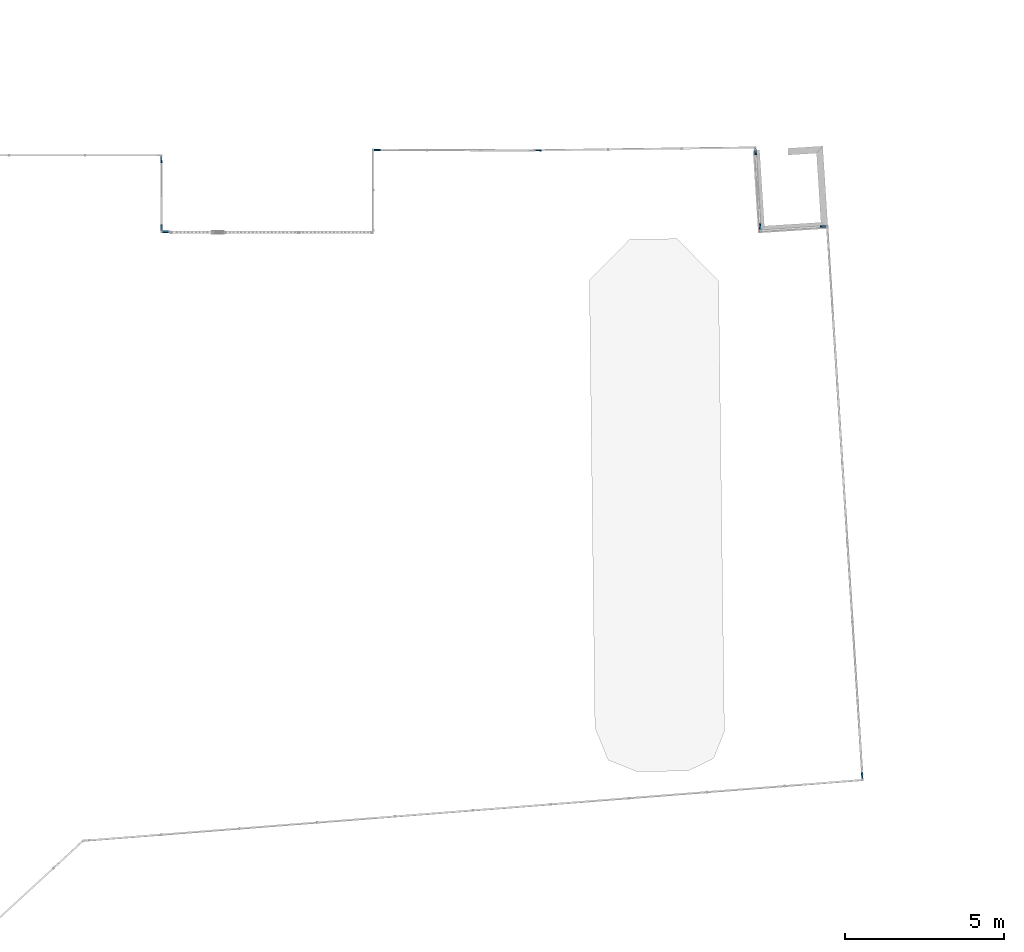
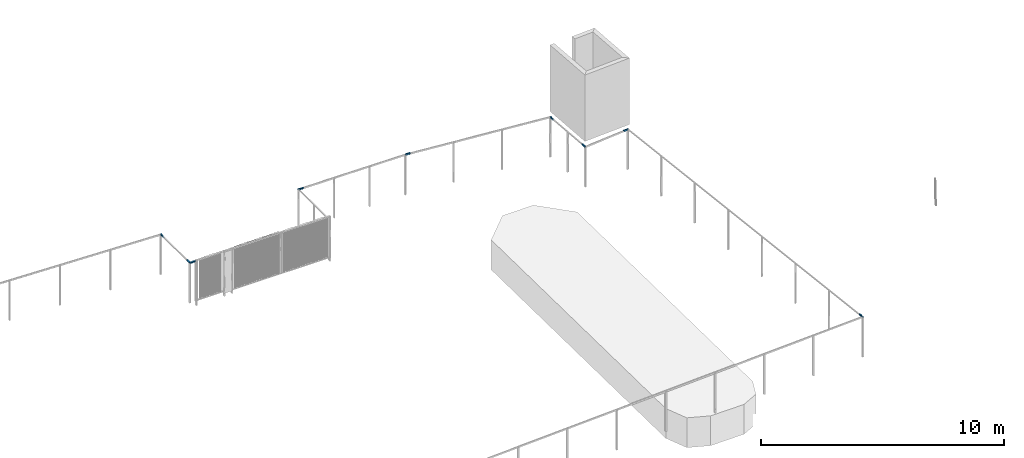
# One storey, part 81 of 91: 9 building element parts, 1 element without a shape of its own.
"""IFC2X3 building model written with IfcOpenShell, lengths in metres."""

import ifcopenshell
import ifcopenshell.guid

model = None  # the IFC model being written
_history = None  # IfcOwnerHistory: only IFC2X3 demands one
_inside = {}  # id of a spatial element -> (the spatial element, [elements in it])
_under = {}  # id of a project, library or spatial element -> (it, [spatial elements below it])
_declared = {}  # id of a project -> (the project, [libraries it declares])
_typed = {}  # id of a type object -> (the type object, [elements of that type])
_made_of = {}  # id of a material, layer set ... -> (it, [elements and type objects made of it])


def new_model(schema):
    """Start an empty IFC model of exactly this schema.

    Asked for "IFC4X3", IfcOpenShell would pick the latest addendum, in which some entities
    have other attributes; the version numbers below select the first issue.
    IFC2X3 requires an IfcOwnerHistory on every rooted entity: one is made here for all.
    """
    global model, _history
    if schema == "IFC4X3":
        model = ifcopenshell.file(schema_version=(4, 3, 0, 0))
    else:
        model = ifcopenshell.file(schema=schema)
    _inside.clear()
    _under.clear()
    _declared.clear()
    _typed.clear()
    _made_of.clear()
    _history = None
    if model.schema == "IFC2X3":
        org = make("IfcOrganization", Name="unknown")
        user = make(
            "IfcPersonAndOrganization",
            ThePerson=make("IfcPerson", FamilyName="unknown"),
            TheOrganization=org,
        )
        app = make(
            "IfcApplication",
            ApplicationDeveloper=org,
            Version="unknown",
            ApplicationFullName="unknown",
            ApplicationIdentifier="unknown",
        )
        _history = make(
            "IfcOwnerHistory",
            OwningUser=user,
            OwningApplication=app,
            ChangeAction="ADDED",
            CreationDate=0,
        )
    return model


def make(cls, **values):
    """One entity of the class cls with the attributes given. An attribute that is None is left unset."""
    return model.create_entity(
        cls, **{name: value for name, value in values.items() if value is not None}
    )


def entity(cls, *values):
    """Any entity or typed value of the class cls, its attributes in the order of the schema. None: left unset."""
    e = model.create_entity(cls)
    for i, value in enumerate(values):
        if value is not None:
            e[i] = value
    return e


def rooted(cls, **values):
    """An entity with a GlobalId (a new one), such as an element, a storey or a relation."""
    return make(cls, GlobalId=ifcopenshell.guid.new(), OwnerHistory=_history, **values)


def si_unit(unit_type, name, prefix=None):
    """IfcSIUnit, for example si_unit("LENGTHUNIT", "METRE", prefix="MILLI")."""
    return make("IfcSIUnit", UnitType=unit_type, Prefix=prefix, Name=name)


def converted_unit(unit_type, name, factor, base, dimensions=None, offset=None):
    """IfcConversionBasedUnit, such as the inch: factor (a typed value) times the base unit."""
    return make(
        "IfcConversionBasedUnit"
        if offset is None
        else "IfcConversionBasedUnitWithOffset",
        ConversionOffset=offset,
        Dimensions=None
        if dimensions is None
        else entity("IfcDimensionalExponents", *dimensions),
        UnitType=unit_type,
        Name=name,
        ConversionFactor=make(
            "IfcMeasureWithUnit", ValueComponent=factor, UnitComponent=base
        ),
    )


def derived_unit(unit_type, elements):
    """IfcDerivedUnit: a product of units, each with its exponent."""
    return make(
        "IfcDerivedUnit",
        Elements=[
            make("IfcDerivedUnitElement", Unit=unit, Exponent=power)
            for unit, power in elements
        ],
        UnitType=unit_type,
    )


def money_unit(currency):
    """IfcMonetaryUnit."""
    return make("IfcMonetaryUnit", Currency=currency)


def assignment(units):
    """IfcUnitAssignment: the units of a project."""
    return None if units is None else make("IfcUnitAssignment", Units=units)


def point(xyz):
    """IfcCartesianPoint."""
    return None if xyz is None else make("IfcCartesianPoint", Coordinates=xyz)


def direction(xyz):
    """IfcDirection."""
    return None if xyz is None else make("IfcDirection", DirectionRatios=xyz)


def frame(location, z_axis=None, x_axis=None):
    """IfcAxis2Placement3D, a coordinate frame: its origin and axes. An axis left out is left unset."""
    return make(
        "IfcAxis2Placement3D",
        Location=point(location),
        Axis=direction(z_axis),
        RefDirection=direction(x_axis),
    )


def origin_with_axes():
    """The frame at (0, 0, 0) with the z axis (0, 0, 1) and the x axis (1, 0, 0) written out."""
    return frame((0.0, 0.0, 0.0), z_axis=(0.0, 0.0, 1.0), x_axis=(1.0, 0.0, 0.0))


def place(relative_to, where):
    """IfcLocalPlacement: puts the frame where relative to a parent placement (None: the world)."""
    return make(
        "IfcLocalPlacement", PlacementRelTo=relative_to, RelativePlacement=where
    )


def context(
    kind, dimensions, precision=None, world=None, true_north=None, identifier=None
):
    """IfcGeometricRepresentationContext, for example the 3D "Model" context."""
    return make(
        "IfcGeometricRepresentationContext",
        ContextIdentifier=identifier,
        ContextType=kind,
        CoordinateSpaceDimension=dimensions,
        Precision=precision,
        WorldCoordinateSystem=world,
        TrueNorth=true_north,
    )


def subcontext(parent, identifier, kind, view, scale=None):
    """IfcGeometricRepresentationSubContext, for example "Body" below "Model"."""
    return make(
        "IfcGeometricRepresentationSubContext",
        ContextIdentifier=identifier,
        ContextType=kind,
        ParentContext=parent,
        TargetScale=scale,
        TargetView=view,
    )


def project(units=None, contexts=None):
    """IfcProject with its units and contexts."""
    return rooted(
        "IfcProject",
        Name="project",
        RepresentationContexts=contexts,
        UnitsInContext=assignment(units),
    )


def spatial(cls, under=None, at=None, **own):
    """A site, building, storey or space (cls), placed at a placement, below another one or the project."""
    s = rooted(cls, ObjectPlacement=at, **own)
    if under is not None:
        _under.setdefault(under.id(), (under, []))[1].append(s)
    return s


def faces_of(points, faces, orient=None, outer=None):
    """IfcFace entities. A face is a list of loops; a loop is a list of indices into points, from 0.

    orient and outer hold one flag for each loop. By default every Orientation is true, the
    first loop of a face is its IfcFaceOuterBound and the others are IfcFaceBound.
    """
    made = []
    for i, loops in enumerate(faces):
        bounds = []
        for j, loop in enumerate(loops):
            is_outer = j == 0 if outer is None else outer[i][j]
            bounds.append(
                make(
                    "IfcFaceOuterBound" if is_outer else "IfcFaceBound",
                    Bound=make("IfcPolyLoop", Polygon=[points[k] for k in loop]),
                    Orientation=True if orient is None else orient[i][j],
                )
            )
        made.append(make("IfcFace", Bounds=bounds))
    return made


def faceted_brep(points, faces, orient=None, outer=None, voids=None):
    """IfcFacetedBrep: a solid bounded by flat faces; with voids (closed shells), ...WithVoids."""
    shared = [point(p) for p in points]
    hull = make("IfcClosedShell", CfsFaces=faces_of(shared, faces, orient, outer))
    if voids is None:
        return make("IfcFacetedBrep", Outer=hull)
    return make(
        "IfcFacetedBrepWithVoids",
        Outer=hull,
        Voids=[
            make(cls, CfsFaces=faces_of(shared, fs, o, b)) for cls, fs, o, b in voids
        ],
    )


def shape(context_of_items, identifier, shape_type, items):
    """IfcShapeRepresentation: the items that make up one representation, for example the "Body"."""
    return make(
        "IfcShapeRepresentation",
        ContextOfItems=context_of_items,
        RepresentationIdentifier=identifier,
        RepresentationType=shape_type,
        Items=items,
    )


def material(Name=None, Category=None):
    """IfcMaterial."""
    return make("IfcMaterial", Name=Name, Category=Category)


def made_of(thing, what):
    """Note that an element or type object is made of a material, layer set ...; save() writes the relation."""
    if what is not None:
        _made_of.setdefault(what.id(), (what, []))[1].append(thing)
    return thing


def type_object(cls, material=None, **own):
    """A type object (cls), such as IfcWallType, which elements share."""
    return made_of(rooted(cls, **own), material)


def element(
    cls,
    number,
    at=None,
    inside=None,
    cuts=None,
    type_object=None,
    material=None,
    context=None,
    identifier="Body",
    shape_type=None,
    held_by="IfcProductDefinitionShape",
    body=None,
    shapes=None,
    **own,
):
    """One element of the class cls, such as IfcWall. Its Tag is "e" and its number.

    at: its placement. inside: the storey or other place that contains it. cuts: it is an
    opening in that element (IfcRelVoidsElement). A single representation is given by context,
    identifier, shape_type and body (its items); several are given by shapes. held_by: the class
    of the entity that holds the representations. save() writes the other relations.
    """
    e = rooted(cls, Tag="e%d" % number, ObjectPlacement=at, **own)
    if body is not None:
        shapes = [shape(context, identifier, shape_type, body)]
    if shapes is not None:
        e.Representation = make(held_by, Representations=shapes)
    if inside is not None:
        _inside.setdefault(inside.id(), (inside, []))[1].append(e)
    if cuts is not None:
        rooted(
            "IfcRelVoidsElement", RelatingBuildingElement=cuts, RelatedOpeningElement=e
        )
    if type_object is not None:
        _typed.setdefault(type_object.id(), (type_object, []))[1].append(e)
    return made_of(e, material)


def aggregate(whole, parts):
    """IfcRelAggregates: a whole, such as a stair, and the parts it consists of."""
    return rooted("IfcRelAggregates", RelatingObject=whole, RelatedObjects=parts)


def save(model, path):
    """Write the relations noted so far, then the file.

    IfcRelAggregates (storeys below a building ...), IfcRelContainedInSpatialStructure (elements
    in a storey), IfcRelDefinesByType, IfcRelAssociatesMaterial and IfcRelDeclares: one each for
    every whole, place, type object, material and project.
    """
    for whole, parts in _under.values():
        aggregate(whole, parts)
    for where, things in _inside.values():
        rooted(
            "IfcRelContainedInSpatialStructure",
            RelatedElements=things,
            RelatingStructure=where,
        )
    for kind, things in _typed.values():
        rooted("IfcRelDefinesByType", RelatedObjects=things, RelatingType=kind)
    for what, things in _made_of.values():
        rooted("IfcRelAssociatesMaterial", RelatedObjects=things, RelatingMaterial=what)
    for by, libraries in _declared.values():
        rooted("IfcRelDeclares", RelatingContext=by, RelatedDefinitions=libraries)
    model.write(path)


model = new_model("IFC2X3")

# Units and contexts
model_context = context("Model", 3, precision=1e-05, world=origin_with_axes(), true_north=direction((0.0, 1.0)))
body_context = subcontext(model_context, "Body", "Model", "MODEL_VIEW")
ifc_project = project(units=[si_unit("LENGTHUNIT", "METRE"), si_unit("AREAUNIT", "SQUARE_METRE"), si_unit("VOLUMEUNIT", "CUBIC_METRE"), converted_unit("PLANEANGLEUNIT", "DEGREE", entity("IfcPlaneAngleMeasure", 0.0174532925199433), si_unit("PLANEANGLEUNIT", "RADIAN"), dimensions=[0, 0, 0, 0, 0, 0, 0]), money_unit("EUR"), converted_unit("TIMEUNIT", "Year", entity("IfcTimeMeasure", 31557600.0), si_unit("TIMEUNIT", "SECOND"), dimensions=[0, 0, 1, 0, 0, 0, 0]), si_unit("MASSUNIT", "GRAM", prefix="KILO"), si_unit("THERMODYNAMICTEMPERATUREUNIT", "DEGREE_CELSIUS"), si_unit("LUMINOUSINTENSITYUNIT", "LUMEN"), si_unit("ENERGYUNIT", "JOULE", prefix="MEGA"), derived_unit("THERMALCONDUCTANCEUNIT", [(si_unit("POWERUNIT", "WATT"), 1), (si_unit("LENGTHUNIT", "METRE"), -1), (si_unit("THERMODYNAMICTEMPERATUREUNIT", "KELVIN"), -1)]), derived_unit("SPECIFICHEATCAPACITYUNIT", [(si_unit("ENERGYUNIT", "JOULE"), 1), (si_unit("MASSUNIT", "GRAM", prefix="KILO"), -1), (si_unit("THERMODYNAMICTEMPERATUREUNIT", "KELVIN"), -1)]), derived_unit("MASSDENSITYUNIT", [(si_unit("MASSUNIT", "GRAM", prefix="KILO"), 1), (si_unit("VOLUMEUNIT", "CUBIC_METRE"), -1)])], contexts=[model_context])

# Site, building, storey
site_placement = place(None, origin_with_axes())
site = spatial("IfcSite", under=ifc_project, at=site_placement, Name="Site", CompositionType="ELEMENT")
building_placement = place(site_placement, origin_with_axes())
building = spatial("IfcBuilding", under=site, at=building_placement, Name="Bâtiment", CompositionType="ELEMENT")
storey_placement = place(building_placement, origin_with_axes())
storey = spatial("IfcBuildingStorey", under=building, at=storey_placement, Name="RDC", CompositionType="ELEMENT", Elevation=0.0)

# Proxy, building element parts
building_element_proxy_type = type_object("IfcBuildingElementProxyType", Name="Type de garde-corps", PredefinedType="NOTDEFINED")
proxy_placement = place(storey_placement, frame((79.63337255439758, 3.614023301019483, -2.37161404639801), z_axis=(0.0, 0.0, 1.0), x_axis=(1.0, 0.0, 0.0)))
proxy = element("IfcBuildingElementProxy", 1, at=proxy_placement, inside=storey, type_object=building_element_proxy_type, Name="RAMPE-004")
ifc_material = material(Name="Acier Galva")
building_element_part_1_placement = place(proxy_placement, origin_with_axes())
building_element_part_1 = element("IfcBuildingElementPart", 2, at=building_element_part_1_placement, material=ifc_material, Name="Acier Galva", context=body_context, shape_type="Brep", body=[
    faceted_brep([(1.36518852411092, 1.005013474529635, 2.83654979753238), (1.36518852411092, 1.005013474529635, 2.78654979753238), (1.36518852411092, 1.155013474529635, 2.78654979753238), (1.36518852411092, 1.155013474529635, 2.784755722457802), (1.36518852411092, 1.205013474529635, 2.834180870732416), (1.36518852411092, 1.205013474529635, 2.83654979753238), (1.315188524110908, 0.9550134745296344, 2.83654979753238), (1.315188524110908, 0.9550134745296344, 2.78654979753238), (1.315188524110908, 1.155013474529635, 2.78654979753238), (1.315188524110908, 1.155013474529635, 2.784755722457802), (1.315188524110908, 1.205013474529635, 2.834180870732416), (1.315188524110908, 1.205013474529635, 2.83654979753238)], [[[0, 1, 2, 3, 4, 5]], [[0, 6, 7, 1]], [[1, 7, 8, 2]], [[2, 8, 9, 3]], [[4, 3, 9, 10]], [[11, 5, 4, 10]], [[6, 0, 5, 11]], [[7, 6, 11, 10, 9, 8]]]),
])
building_element_part_2_placement = place(proxy_placement, origin_with_axes())
building_element_part_2 = element("IfcBuildingElementPart", 3, at=building_element_part_2_placement, material=ifc_material, Name="Acier Galva", context=body_context, shape_type="Brep", body=[
    faceted_brep([(1.36518852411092, 3.204566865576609, 2.811058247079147), (1.36518852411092, 3.154566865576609, 2.761633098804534), (1.36518852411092, 3.154566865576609, 2.75937278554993), (1.364831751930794, 3.404909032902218, 2.759375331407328), (1.36518852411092, 3.204566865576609, 2.80937278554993), (1.315188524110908, 3.204566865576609, 2.811058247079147), (1.315188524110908, 3.154566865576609, 2.761633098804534), (1.315188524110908, 3.154566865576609, 2.75937278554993), (1.314831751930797, 3.354938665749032, 2.759375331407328), (1.365545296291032, 3.404195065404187, 2.809370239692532), (1.315188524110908, 3.204566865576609, 2.80937278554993), (1.315545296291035, 3.354224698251, 2.809370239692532)], [[[0, 1, 2, 3, 4]], [[0, 5, 6, 1]], [[1, 6, 7, 2]], [[2, 8, 3]], [[4, 3, 9]], [[5, 0, 4, 10]], [[6, 5, 10, 11, 7]], [[2, 7, 8]], [[9, 3, 8, 11]], [[10, 4, 9]], [[10, 9, 11]], [[7, 11, 8]]]),
])
building_element_part_3_placement = place(proxy_placement, origin_with_axes())
building_element_part_3 = element("IfcBuildingElementPart", 4, at=building_element_part_3_placement, material=ifc_material, Name="Acier Galva", context=body_context, shape_type="Brep", body=[
    faceted_brep([(23.41783867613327, -16.28062715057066, 2.85059533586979), (23.41746773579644, -16.28105480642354, 2.800596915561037), (23.40492505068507, -16.08159979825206, 2.800596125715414), (23.36479769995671, -16.23462044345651, 2.85059533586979), (23.36442675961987, -16.23504809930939, 2.800596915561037), (23.35502676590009, -16.0847874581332, 2.800596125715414), (23.40492505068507, -16.08159979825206, 2.792105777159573), (23.40173739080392, -16.03170151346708, 2.840056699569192), (23.40173739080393, -16.03170151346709, 2.850596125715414), (23.35183910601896, -16.03488917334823, 2.850596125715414), (23.35502676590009, -16.08478745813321, 2.792105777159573), (23.35183910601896, -16.03488917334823, 2.840056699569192)], [[[0, 1, 2]], [[0, 3, 4, 1]], [[1, 5, 2]], [[0, 2, 6, 7, 8]], [[3, 0, 8]], [[4, 3, 9]], [[1, 4, 5]], [[2, 5, 10, 6]], [[7, 6, 10, 11]], [[9, 8, 7, 11]], [[3, 8, 9]], [[4, 9, 11, 10, 5]]]),
])
building_element_part_4_placement = place(proxy_placement, origin_with_axes())
building_element_part_4 = element("IfcBuildingElementPart", 5, at=building_element_part_4_placement, material=ifc_material, Name="Acier Galva", context=body_context, shape_type="Brep", body=[
    faceted_brep([(22.30162328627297, 1.180440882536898, 2.119179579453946), (22.30273777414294, 1.179464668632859, 2.069190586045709), (22.10256647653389, 1.166476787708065, 2.069185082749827), (22.25496815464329, 1.127177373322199, 2.119179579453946), (22.25608264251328, 1.12620115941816, 2.069190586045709), (22.10593432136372, 1.116590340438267, 2.069185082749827), (22.0526800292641, 1.163108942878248, 2.119185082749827), (22.05604787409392, 1.113222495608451, 2.119185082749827), (22.1059343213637, 1.116590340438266, 2.062642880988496), (22.10256647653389, 1.166476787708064, 2.062642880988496), (22.0526800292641, 1.16310894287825, 2.111205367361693), (22.05604787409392, 1.113222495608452, 2.111205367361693)], [[[0, 1, 2]], [[0, 3, 4, 1]], [[1, 5, 2]], [[0, 2, 6]], [[3, 0, 6]], [[4, 3, 7]], [[1, 4, 5]], [[2, 5, 8, 9]], [[6, 2, 9, 10]], [[3, 6, 7]], [[4, 7, 5]], [[5, 7, 11, 8]], [[10, 9, 8, 11]], [[7, 6, 10, 11]]]),
])
building_element_part_5_placement = place(proxy_placement, origin_with_axes())
building_element_part_5 = element("IfcBuildingElementPart", 6, at=building_element_part_5_placement, material=ifc_material, Name="Acier Galva", context=body_context, shape_type="Brep", body=[
    faceted_brep([(20.19601020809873, 1.038122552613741, 2.056174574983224), (20.19678710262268, 1.037437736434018, 2.006179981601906), (20.18758945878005, 1.187316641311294, 2.006177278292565), (20.14906116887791, 0.9848608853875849, 2.056174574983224), (20.14983806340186, 0.9841760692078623, 2.006179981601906), (20.13767599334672, 1.184376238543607, 2.006177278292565), (20.18758945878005, 1.187316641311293, 2.004885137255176), (20.18464905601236, 1.237230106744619, 2.054282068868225), (20.18464905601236, 1.237230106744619, 2.056177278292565), (20.13473559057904, 1.234289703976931, 2.056177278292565), (20.13767599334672, 1.184376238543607, 2.004885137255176), (20.13473559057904, 1.234289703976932, 2.054282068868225)], [[[0, 1, 2]], [[0, 3, 4, 1]], [[1, 5, 2]], [[0, 2, 6, 7, 8]], [[3, 0, 8]], [[4, 3, 9]], [[1, 4, 5]], [[2, 5, 10, 6]], [[7, 6, 10, 11]], [[9, 8, 7, 11]], [[3, 8, 9]], [[4, 9, 11, 10, 5]]]),
])
building_element_part_6_placement = place(proxy_placement, origin_with_axes())
building_element_part_6 = element("IfcBuildingElementPart", 7, at=building_element_part_6_placement, material=ifc_material, Name="Acier Galva", context=body_context, shape_type="Brep", body=[
    faceted_brep([(20.05416717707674, 3.452165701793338, 2.027357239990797), (20.05710757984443, 3.402252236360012, 1.977960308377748), (20.05710757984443, 3.402252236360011, 1.976635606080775), (20.04139783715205, 3.651620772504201, 1.976656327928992), (20.05416717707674, 3.452165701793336, 2.026635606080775), (20.00425371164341, 3.449225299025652, 2.027357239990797), (20.00719411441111, 3.399311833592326, 1.977960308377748), (20.00719411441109, 3.399311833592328, 1.976635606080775), (19.99428262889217, 3.601179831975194, 1.976656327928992), (20.04355544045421, 3.649605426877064, 2.026614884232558), (20.00425371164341, 3.449225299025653, 2.026635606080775), (19.99644023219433, 3.599164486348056, 2.026614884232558)], [[[0, 1, 2, 3, 4]], [[0, 5, 6, 1]], [[1, 6, 7, 2]], [[2, 8, 3]], [[4, 3, 9]], [[5, 0, 4, 10]], [[6, 5, 10, 11, 7]], [[2, 7, 8]], [[9, 3, 8, 11]], [[10, 4, 9]], [[10, 9, 11]], [[7, 11, 8]]]),
])
building_element_part_7_placement = place(proxy_placement, origin_with_axes())
building_element_part_7 = element("IfcBuildingElementPart", 8, at=building_element_part_7_placement, material=ifc_material, Name="Acier Galva", context=body_context, shape_type="Brep", body=[
    faceted_brep([(13.29009373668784, 3.564252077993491, 2.602969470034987), (13.24009783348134, 3.563612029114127, 2.557068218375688), (13.24009783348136, 3.563612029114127, 2.572131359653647), (13.06528101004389, 3.56137431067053, 2.572131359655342), (13.29009373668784, 3.564252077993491, 2.622131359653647), (13.2907337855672, 3.514256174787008, 2.602969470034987), (13.24073788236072, 3.513616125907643, 2.557068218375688), (13.24073788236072, 3.513616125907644, 2.572131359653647), (13.06551218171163, 3.511373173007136, 2.572131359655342), (13.06535221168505, 3.561374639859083, 2.622131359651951), (13.2907337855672, 3.514256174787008, 2.622131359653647), (13.06558338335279, 3.511373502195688, 2.622131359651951)], [[[0, 1, 2, 3, 4]], [[0, 5, 6, 1]], [[1, 6, 7, 2]], [[2, 7, 8, 3]], [[4, 3, 9]], [[5, 0, 4, 10]], [[6, 5, 10, 11, 7]], [[7, 11, 8]], [[9, 3, 8, 11]], [[10, 4, 9, 11]]]),
])
building_element_part_8_placement = place(proxy_placement, origin_with_axes())
building_element_part_8 = element("IfcBuildingElementPart", 9, at=building_element_part_8_placement, material=ifc_material, Name="Acier Galva", context=body_context, shape_type="Brep", body=[
    faceted_brep([(8.225421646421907, 3.578579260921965, 2.635916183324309), (8.175421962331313, 3.578756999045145, 2.586058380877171), (8.175421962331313, 3.578756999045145, 2.58661404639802), (7.975334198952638, 3.579468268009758, 2.58661404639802), (7.975334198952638, 3.579468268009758, 2.636614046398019), (8.225421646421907, 3.578579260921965, 2.636614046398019), (8.225243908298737, 3.528579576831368, 2.635916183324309), (8.175244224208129, 3.528757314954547, 2.586058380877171), (8.175244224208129, 3.528757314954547, 2.58661404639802), (8.025334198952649, 3.52929021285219, 2.58661404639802), (8.025334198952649, 3.52929021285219, 2.636614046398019), (8.225243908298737, 3.528579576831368, 2.636614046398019)], [[[0, 1, 2, 3, 4, 5]], [[0, 6, 7, 1]], [[1, 7, 8, 2]], [[2, 8, 9, 3]], [[4, 3, 9, 10]], [[11, 5, 4, 10]], [[6, 0, 5, 11]], [[7, 6, 11, 10, 9, 8]]]),
])
building_element_part_9_placement = place(proxy_placement, origin_with_axes())
building_element_part_9 = element("IfcBuildingElementPart", 10, at=building_element_part_9_placement, material=ifc_material, Name="Acier Galva", context=body_context, shape_type="Brep", body=[
    faceted_brep([(1.602995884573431, 1.005013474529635, 2.83654979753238), (1.602995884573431, 1.005013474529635, 2.78654979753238), (1.36518852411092, 1.005013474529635, 2.78654979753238), (1.36518852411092, 1.005013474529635, 2.83654979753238), (1.602995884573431, 0.9550134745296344, 2.83654979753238), (1.602995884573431, 0.9550134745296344, 2.78654979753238), (1.315188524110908, 0.9550134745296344, 2.78654979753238), (1.315188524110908, 0.9550134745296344, 2.83654979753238)], [[[0, 1, 2, 3]], [[0, 4, 5, 1]], [[1, 5, 6, 2]], [[3, 2, 6, 7]], [[4, 0, 3, 7]], [[5, 4, 7, 6]]]),
])
aggregate(proxy, [building_element_part_1, building_element_part_2, building_element_part_3, building_element_part_4, building_element_part_5, building_element_part_6, building_element_part_7, building_element_part_8, building_element_part_9])

save(model, "model.ifc")
